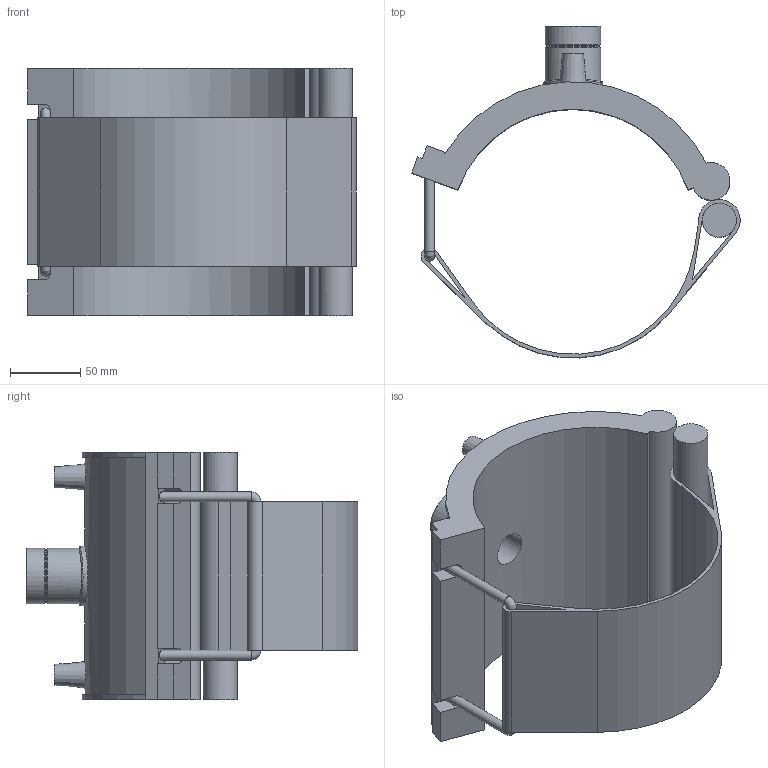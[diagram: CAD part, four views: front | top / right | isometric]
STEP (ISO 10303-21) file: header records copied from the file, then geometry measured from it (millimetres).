
FILE_DESCRIPTION(/* description */ ('PLASSON TRANSITION SADDLE 6''''DIPS x 1"NPT'),/* implementation_level */ '2;1');
FILE_NAME(/* name */ 'C:\Dropbox\KIMPROJECTS-Inventor 2019\99-16-3568-Processing Inch\ASTM ElectroFusion 2021\5938D\5938D00306045.ipt.stp',/* time_stamp */ '2021-08-30T09:52:01+03:00',/* author */ ('KIM'),/* organization */ (''),/* preprocessor_version */ 'ST-DEVELOPER v17.2',/* originating_system */ 'Autodesk Inventor 2019',/* authorisation */ '');
FILE_SCHEMA (('AP203_CONFIGURATION_CONTROLLED_3D_DESIGN_OF_MECHANICAL_PARTS_AND_ASSEMBLIES_MIM_LF { 1 0 10303 203 3 1 4 }','AUTOMOTIVE_DESIGN { 1 0 10303 214 3 1 1 }'));
Length unit declared in the file: inch
Products named in the file (1): 5938D00306045
Bounding box: 233.85 x 236.35 x 176.02 mm (x, y, z)
Volume: 1098794.1 mm3; surface area: 230401.8 mm2
Topology: 1 solids, 1 shells, 78 faces, 196 edges, 128 vertices
Faces by surface type: plane 42, cylinder 28, cone 5, torus 2, bspline 1
Full cylindrical faces by diameter (mm): 4 x2, 6.98 x2, 10 x2, 24.233 x1, 24.296 x1, 30.291 x1, 38.378 x1, 39.378 x2, 42.407 x1
Entity records: 2753 total; most frequent: CARTESIAN_POINT 762, DIRECTION 414, ORIENTED_EDGE 394, EDGE_CURVE 197, AXIS2_PLACEMENT_3D 150, VERTEX_POINT 128, LINE 114, VECTOR 114
